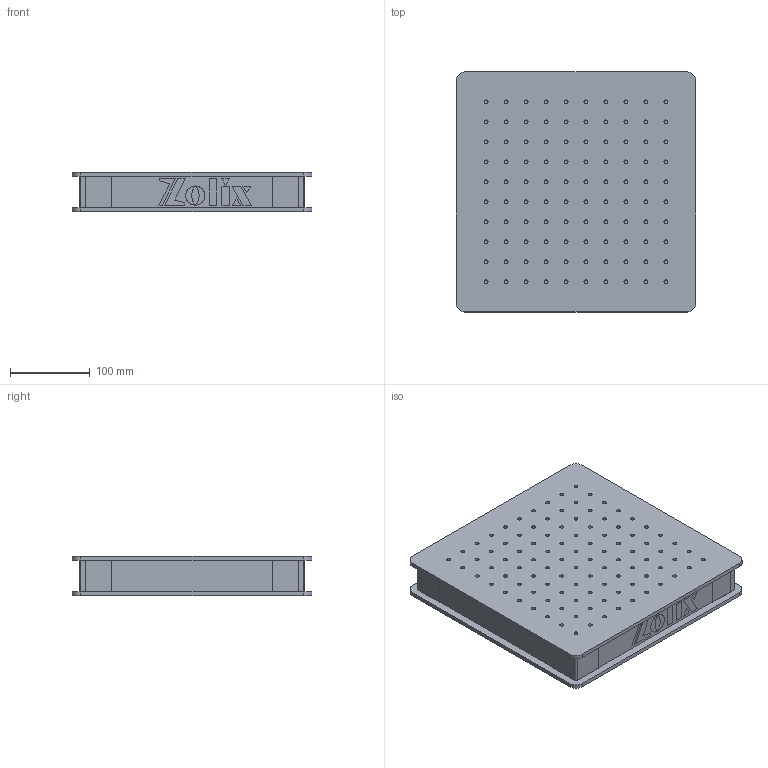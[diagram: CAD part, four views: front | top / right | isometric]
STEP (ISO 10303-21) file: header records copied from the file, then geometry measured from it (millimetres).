
FILE_DESCRIPTION (( 'STEP AP203' ), '1' );
FILE_NAME ('NTBR33-50 铁磁不锈钢面包板 AP203.STEP', '2025-02-13T02:33:03', ( '13701099104@139.COM' ), ( '' ), 'SwSTEP 2.0', 'SolidWorks 2021', '' );
FILE_SCHEMA (( 'CONFIG_CONTROL_DESIGN' ));
Length unit declared in the file: millimetre
Products named in the file (1): NTBR33-50 铁磁不锈钢面包板 AP203
Bounding box: 300 x 300 x 50 mm (x, y, z)
Surface area: 434547 mm2 (no closed solid volume)
Topology: 0 solids, 30 shells, 297 faces, 1101 edges, 836 vertices
Faces by surface type: cylinder 212, plane 85
Entity records: 12295 total; most frequent: CARTESIAN_POINT 2235, DIRECTION 2121, ORIENTED_EDGE 1804, EDGE_CURVE 1101, VERTEX_POINT 836, AXIS2_PLACEMENT_3D 722, LINE 677, VECTOR 677
